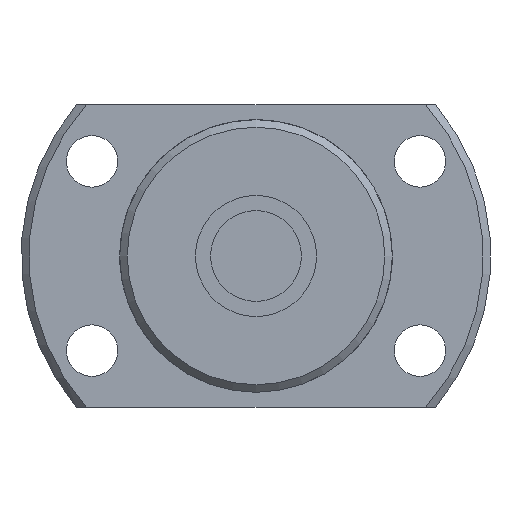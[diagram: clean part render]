
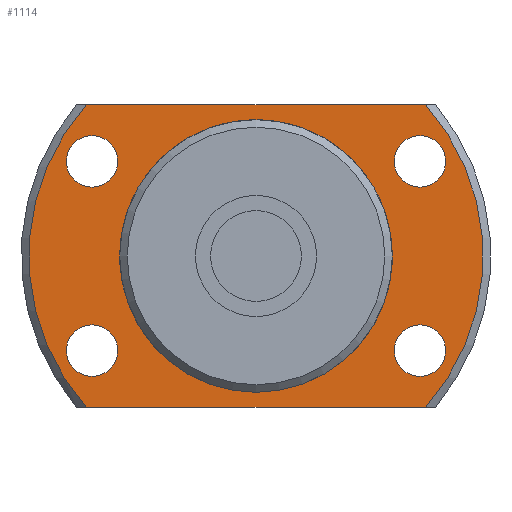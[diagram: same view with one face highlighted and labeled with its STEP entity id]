
A CAD part, left-side view. The second image highlights one B-rep face of the part: STEP entity #1114.
In plain terms, the highlighted planar face has unit normal (-1, 0, 0).
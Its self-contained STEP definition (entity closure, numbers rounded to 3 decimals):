
#93=LINE('',#1901,#163);
#94=LINE('',#1905,#164);
#163=VECTOR('',#1533,1000.);
#164=VECTOR('',#1536,1000.);
#331=ORIENTED_EDGE('',*,*,#576,.T.);
#332=ORIENTED_EDGE('',*,*,#577,.T.);
#333=ORIENTED_EDGE('',*,*,#578,.T.);
#334=ORIENTED_EDGE('',*,*,#579,.T.);
#335=ORIENTED_EDGE('',*,*,#565,.F.);
#336=ORIENTED_EDGE('',*,*,#580,.F.);
#337=ORIENTED_EDGE('',*,*,#581,.F.);
#338=ORIENTED_EDGE('',*,*,#582,.F.);
#339=ORIENTED_EDGE('',*,*,#559,.T.);
#559=EDGE_CURVE('',#693,#693,#781,.T.);
#565=EDGE_CURVE('',#698,#699,#784,.T.);
#576=EDGE_CURVE('',#708,#708,#790,.T.);
#577=EDGE_CURVE('',#709,#709,#791,.T.);
#578=EDGE_CURVE('',#710,#710,#792,.T.);
#579=EDGE_CURVE('',#711,#711,#793,.T.);
#580=EDGE_CURVE('',#712,#698,#93,.T.);
#581=EDGE_CURVE('',#713,#712,#794,.T.);
#582=EDGE_CURVE('',#699,#713,#94,.T.);
#693=VERTEX_POINT('',#1844);
#698=VERTEX_POINT('',#1858);
#699=VERTEX_POINT('',#1860);
#708=VERTEX_POINT('',#1894);
#709=VERTEX_POINT('',#1896);
#710=VERTEX_POINT('',#1898);
#711=VERTEX_POINT('',#1900);
#712=VERTEX_POINT('',#1902);
#713=VERTEX_POINT('',#1904);
#781=CIRCLE('',#1253,8.85);
#784=CIRCLE('',#1257,15.);
#790=CIRCLE('',#1268,1.7);
#791=CIRCLE('',#1269,1.7);
#792=CIRCLE('',#1270,1.7);
#793=CIRCLE('',#1271,1.7);
#794=CIRCLE('',#1272,15.);
#864=EDGE_LOOP('',(#331));
#865=EDGE_LOOP('',(#332));
#866=EDGE_LOOP('',(#333));
#867=EDGE_LOOP('',(#334));
#868=EDGE_LOOP('',(#335,#336,#337,#338));
#869=EDGE_LOOP('',(#339));
#978=FACE_BOUND('',#864,.T.);
#979=FACE_BOUND('',#865,.T.);
#980=FACE_BOUND('',#866,.T.);
#981=FACE_BOUND('',#867,.T.);
#982=FACE_BOUND('',#868,.T.);
#983=FACE_BOUND('',#869,.T.);
#1047=PLANE('',#1267);
#1114=ADVANCED_FACE('',(#978,#979,#980,#981,#982,#983),#1047,.F.);
#1253=AXIS2_PLACEMENT_3D('',#1843,#1491,#1492);
#1257=AXIS2_PLACEMENT_3D('',#1859,#1501,#1502);
#1267=AXIS2_PLACEMENT_3D('',#1892,#1523,#1524);
#1268=AXIS2_PLACEMENT_3D('',#1893,#1525,#1526);
#1269=AXIS2_PLACEMENT_3D('',#1895,#1527,#1528);
#1270=AXIS2_PLACEMENT_3D('',#1897,#1529,#1530);
#1271=AXIS2_PLACEMENT_3D('',#1899,#1531,#1532);
#1272=AXIS2_PLACEMENT_3D('',#1903,#1534,#1535);
#1491=DIRECTION('',(1.,0.,0.));
#1492=DIRECTION('',(0.,0.,-1.));
#1501=DIRECTION('',(1.,0.,0.));
#1502=DIRECTION('',(0.,0.,-1.));
#1523=DIRECTION('',(1.,0.,0.));
#1524=DIRECTION('',(0.,0.,-1.));
#1525=DIRECTION('',(1.,0.,0.));
#1526=DIRECTION('',(0.,0.,-1.));
#1527=DIRECTION('',(1.,0.,0.));
#1528=DIRECTION('',(0.,0.,-1.));
#1529=DIRECTION('',(1.,0.,0.));
#1530=DIRECTION('',(0.,0.,-1.));
#1531=DIRECTION('',(1.,0.,0.));
#1532=DIRECTION('',(0.,0.,-1.));
#1533=DIRECTION('',(0.,1.,0.));
#1534=DIRECTION('',(1.,0.,0.));
#1535=DIRECTION('',(0.,0.,-1.));
#1536=DIRECTION('',(0.,-1.,0.));
#1843=CARTESIAN_POINT('',(24.,0.,0.));
#1844=CARTESIAN_POINT('',(24.,0.,-8.85));
#1858=CARTESIAN_POINT('',(24.,11.18,-10.));
#1859=CARTESIAN_POINT('',(24.,0.,0.));
#1860=CARTESIAN_POINT('',(24.,11.18,10.));
#1892=CARTESIAN_POINT('',(24.,8.85,0.));
#1893=CARTESIAN_POINT('',(24.,-10.825,-6.25));
#1894=CARTESIAN_POINT('',(24.,-10.825,-7.95));
#1895=CARTESIAN_POINT('',(24.,-10.825,6.25));
#1896=CARTESIAN_POINT('',(24.,-10.825,4.55));
#1897=CARTESIAN_POINT('',(24.,10.825,-6.25));
#1898=CARTESIAN_POINT('',(24.,10.825,-7.95));
#1899=CARTESIAN_POINT('',(24.,10.825,6.25));
#1900=CARTESIAN_POINT('',(24.,10.825,4.55));
#1901=CARTESIAN_POINT('',(24.,-20.5,-10.));
#1902=CARTESIAN_POINT('',(24.,-11.18,-10.));
#1903=CARTESIAN_POINT('',(24.,0.,0.));
#1904=CARTESIAN_POINT('',(24.,-11.18,10.));
#1905=CARTESIAN_POINT('',(24.,20.5,10.));
